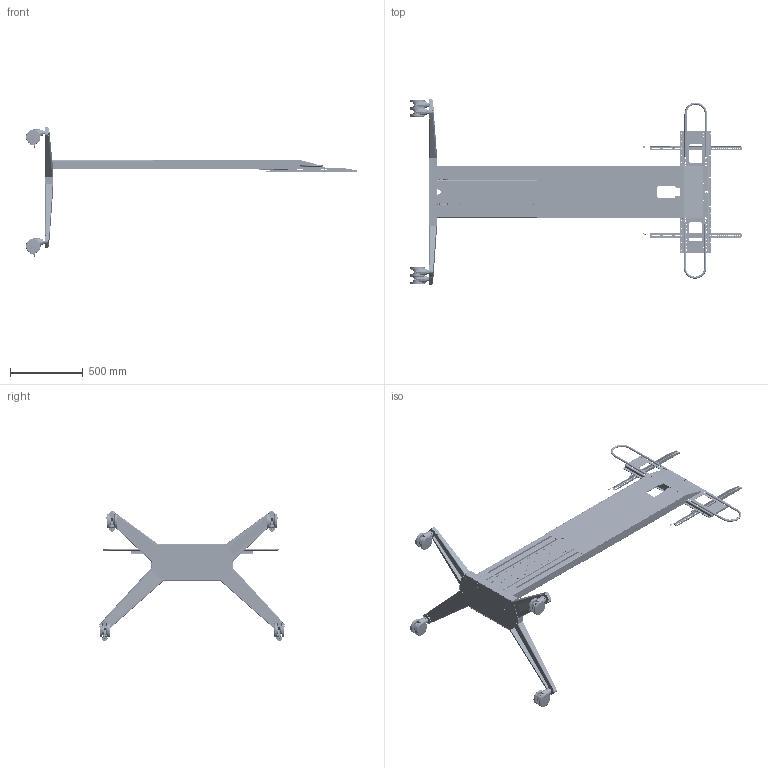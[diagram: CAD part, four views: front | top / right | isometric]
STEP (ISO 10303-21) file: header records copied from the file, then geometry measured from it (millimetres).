
FILE_DESCRIPTION((''),'2;1');
FILE_NAME('F50_FREESTANDING_MAX_ASM_ASM','2022-02-11T13:22:03',('103247'),('捷昌驱动'),'CREO PARAMETRIC BY PTC INC, 2018100','CREO PARAMETRIC BY PTC INC, 2018100','');
FILE_SCHEMA(('CONFIG_CONTROL_DESIGN'));
Products named in the file (90): RR05-304_TOP_BRACKET_42_4; JCSP-0722_1_1_2_1; JS36DR-2331_AF0_1; JS36DR-2330_ASM_1_ASM; JS36DR-1576_1; JS36DR-2329_ASM_1_ASM; JS36DR-2329_ASM_ASM; RR05-251_LEG_TOP4_ASM_27_ASM_1_ASM; RR05-251_LEG_TOP5_ASM_12_ASM_1_ASM; RR05-306_MONITOR_BRACKET_26_15; RR05-204_TOP_CAP_9_9; ASM0001_ASM_2_ASM; RR05-203_REAR_TOP_COVER_16_7; RR05-201_FRONT_TOP_COVER_25_3; NS1_3_6_ASM_1_ASM_1_1_2_3_ASM_2; NS1_3_6_ASM_1_1_ASM_1_ASM_1_A_1_ASM; 0000210278_ASM_1_ASM_1_ASM_1_1__ASM; 0000210276_ASM_1_ASM_1_ASM_1_1__ASM; JCB35NS1-A_ASM_1_ASM_1_1_ASM_1__ASM; JC35TS-1804_1_1_1_8_1; ______17135_1_1_1_1_1_1; ______17135_1_2_1_1_1_1; ______17135_1_3_1_1_1_1; ______17135_1_4_1_1_1_1; ______17135_1_5_1_1_1_1; ______17135_1_ASM_1_1_ASM_1_ASM_ASM; JC35TS-1807_1_ASM_1_1_ASM_1_ASM_ASM; JC35TS-1806_1_1_1_1_1; JC35TS-1805_1_1_1_1_1; JC35TF-0137_1_1_1_2_1; JCSP-0412_1_1_1_1_1; JCSP-0474_1_1_1_1_1; JC35TS-T191184_ASM_1_ASM_1_1_AS_ASM; JC35TS-T215007_ASM_1_ASM_1_1_AS_ASM; 2_ASM_1_1_ASM_1_ASM_1_ASM; RR05-300_MONITOR_CHASSIS_ASM_12_ASM; RR05-250_TOP_ASM_ASM_61_ASM_5_ASM; JC35TS-1668_1_1_5_1; RR05-256-2_BRACKET_SCREWS_8_1; RR05-205_REAR_BOTTOM_COVER_26_7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
Assembly tree (136 placements, depth 12):
  F50_FREESTANDING_MAX_ASM_ASM
    F50_FREESTANDING_MAX_ASM_1_ASM
      RR05-150_MAIN_ASM_ASM_103_ASM_1_ASM
        RR05-250_TOP_ASM_ASM_61_ASM_5_ASM
          RR05-251_LEG_TOP5_ASM_12_ASM_1_ASM
            RR05-251_LEG_TOP4_ASM_27_ASM_1_ASM
              RR05-304_TOP_BRACKET_42_4
              JCSP-0722_1_1_2_1  x8
              JS36DR-2329_ASM_ASM  x2
                JS36DR-2329_ASM_1_ASM
                  JS36DR-2330_ASM_1_ASM
                  JS36DR-1576_1
          ASM0001_ASM_2_ASM
            RR05-306_MONITOR_BRACKET_26_15
            RR05-204_TOP_CAP_9_9
          RR05-203_REAR_TOP_COVER_16_7
          RR05-201_FRONT_TOP_COVER_25_3
          RR05-300_MONITOR_CHASSIS_ASM_12_ASM
            2_ASM_1_1_ASM_1_ASM_1_ASM
              JC35TS-T215007_ASM_1_ASM_1_1_AS_ASM
                JCB35NS1-A_ASM_1_ASM_1_1_ASM_1__ASM
                  0000210276_ASM_1_ASM_1_ASM_1_1__ASM
                JC35TS-1804_1_1_1_8_1
                JC35TS-T191184_ASM_1_ASM_1_1_AS_ASM  x2
                  JC35TS-1807_1_ASM_1_1_ASM_1_ASM_ASM
                  JC35TS-1806_1_1_1_1_1
                  JC35TS-1805_1_1_1_1_1
                  JC35TF-0137_1_1_1_2_1
                  JCSP-0412_1_1_1_1_1
                  JCSP-0474_1_1_1_1_1
        RR05-252_LEG_BOT_ASM_65_ASM_3_ASM
          JC35TS-1668_1_1_5_1
          RR05-256-2_BRACKET_SCREWS_8_1  x6
          RR05-205_REAR_BOTTOM_COVER_26_7
          RR05-202_CONTROLLER_ASM_ASM_7_A_ASM
            RR05-202-1_CONTROLLER_3_1
            RR05-256-2_BRACKET_SCREWS_8_1  x2
          ASM0001_ASM
            JS36DR-2342_ASM_1_1_ASM
              JS36DR-2340_ASM_1_1_ASM
                JS36DR-2341_ASM_1_1_ASM
                  JS36DR-2343_AF0_1_1
                JC35PJ-0476_1_1  x2
              JC35TS-0166_1_1
          JS36DR-2339_ASM_ASM
            JS36DR-2339_ASM_1_ASM
              JS36DR-2338_ASM_1_ASM
                JS36DR-2336_ASM_1_ASM
                  JS36DR-2337_AF0_1
                JC35PJ-0476_1_1_2  x2
              JC35TS-0166_1_1_2
      000_ASM_1_ASM
        RR05-110_BASE_ASM_ASM_ASM_4_ASM_ASM
          RR05-110_BASE_ASM_ASM_252_ASM_3_ASM
            RR05-200_BASE_HUB_ASM_96_ASM_3__ASM
              RR05-200-1_BASE_HUB_BOT_ASM_64__ASM
                RR05-200-1_BASE_HUB_BOT_112_2_1
                RR05-200-1-M_BASE_HUB_MID_61_1_
              RR05-200-2_BASE_HUB_TOP_ASM_45__ASM
                RR05-200-2_BASE_HUB_TOP_93_1_1
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Bounding box: 2284.03 x 1280.42 x 892.92 mm (x, y, z)
Volume: 8396030.8 mm3; surface area: 7679886.3 mm2
Topology: 98 solids, 189 shells, 6669 faces, 18464 edges, 12187 vertices
Faces by surface type: plane 3064, cylinder 2605, bspline 417, cone 282, torus 195, extrusion 100, sphere 6
Entity records: 184446 total; most frequent: CARTESIAN_POINT 70341, ORIENTED_EDGE 23738, DIRECTION 22740, EDGE_CURVE 12000, VERTEX_POINT 7913, AXIS2_PLACEMENT_3D 7673, VECTOR 7394, LINE 7296
